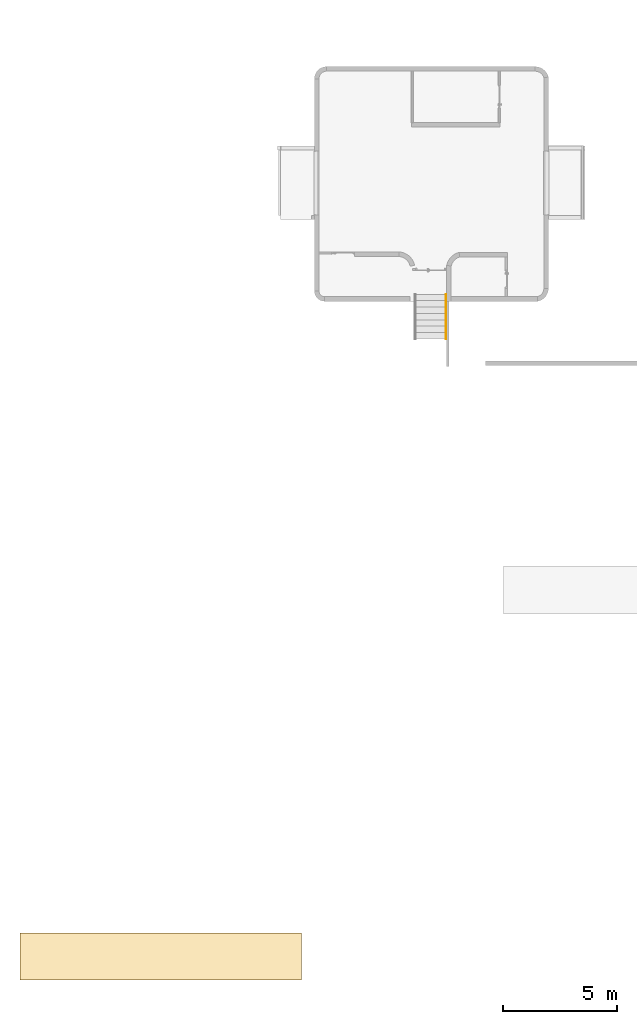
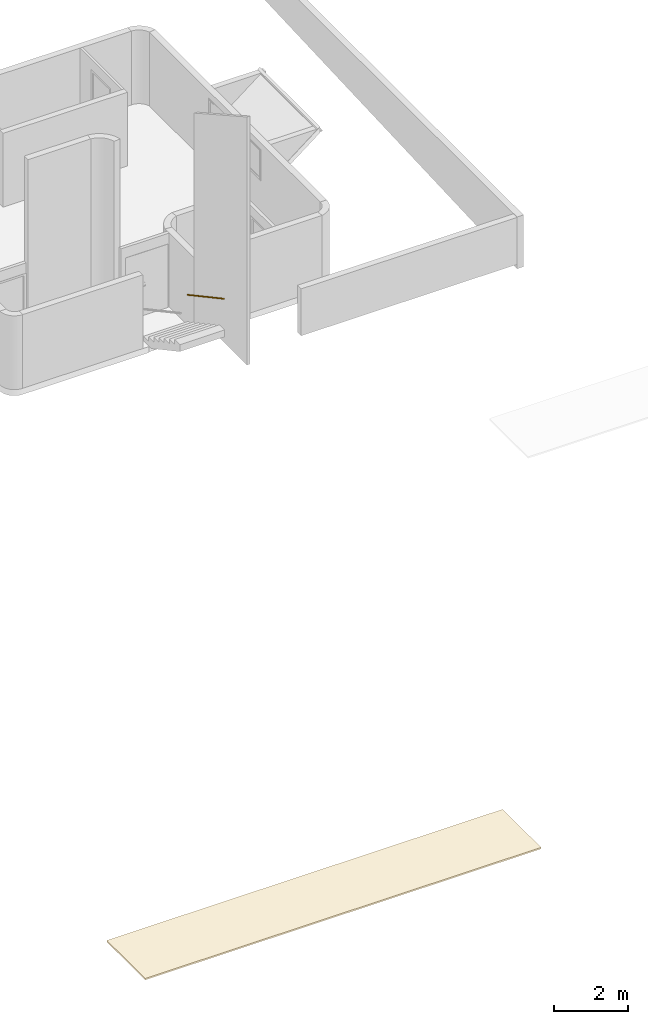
# One storey, part 3 of 3: 1 covering, 1 railing, 1 element without a shape of its own.
"""IFC2X3 building model written with IfcOpenShell, lengths in metres."""

from ifc_helpers import new_model, entity, si_unit, converted_unit, derived_unit, direction, frame, frame_2d, origin, place, context, subcontext, project, spatial, rectangle, extrude, faceted_brep, material, layer, layer_set, layer_usage, type_object, element, aggregate, save


model = new_model("IFC2X3")

# Units and contexts
model_context = context("Model", 3, precision=1e-05, world=origin(), true_north=direction((6.12303176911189e-17, 1.0)))
body_context = subcontext(model_context, "Body", "Model", "MODEL_VIEW")
ifc_project = project(units=[si_unit("LENGTHUNIT", "METRE"), si_unit("AREAUNIT", "SQUARE_METRE"), si_unit("VOLUMEUNIT", "CUBIC_METRE"), converted_unit("PLANEANGLEUNIT", "DEGREE", entity("IfcRatioMeasure", 0.0174532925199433), si_unit("PLANEANGLEUNIT", "RADIAN"), dimensions=[0, 0, 0, 0, 0, 0, 0]), si_unit("MASSUNIT", "GRAM", prefix="KILO"), derived_unit("MASSDENSITYUNIT", [(si_unit("MASSUNIT", "GRAM", prefix="KILO"), 1), (si_unit("LENGTHUNIT", "METRE"), -3)]), derived_unit("MOMENTOFINERTIAUNIT", [(si_unit("LENGTHUNIT", "METRE"), 4)]), si_unit("TIMEUNIT", "SECOND"), si_unit("FREQUENCYUNIT", "HERTZ"), si_unit("THERMODYNAMICTEMPERATUREUNIT", "DEGREE_CELSIUS"), derived_unit("THERMALTRANSMITTANCEUNIT", [(si_unit("MASSUNIT", "GRAM", prefix="KILO"), 1), (si_unit("THERMODYNAMICTEMPERATUREUNIT", "KELVIN"), -1), (si_unit("TIMEUNIT", "SECOND"), -3)]), derived_unit("VOLUMETRICFLOWRATEUNIT", [(si_unit("LENGTHUNIT", "METRE"), 3), (si_unit("TIMEUNIT", "SECOND"), -1)]), si_unit("ELECTRICCURRENTUNIT", "AMPERE"), si_unit("ELECTRICVOLTAGEUNIT", "VOLT"), si_unit("POWERUNIT", "WATT"), si_unit("FORCEUNIT", "NEWTON", prefix="KILO"), si_unit("ILLUMINANCEUNIT", "LUX"), si_unit("LUMINOUSFLUXUNIT", "LUMEN"), si_unit("LUMINOUSINTENSITYUNIT", "CANDELA"), derived_unit("USERDEFINED", [(si_unit("MASSUNIT", "GRAM", prefix="KILO"), -1), (si_unit("LENGTHUNIT", "METRE"), -2), (si_unit("TIMEUNIT", "SECOND"), 3), (si_unit("LUMINOUSFLUXUNIT", "LUMEN"), 1)]), derived_unit("LINEARVELOCITYUNIT", [(si_unit("LENGTHUNIT", "METRE"), 1), (si_unit("TIMEUNIT", "SECOND"), -1)]), si_unit("PRESSUREUNIT", "PASCAL"), derived_unit("USERDEFINED", [(si_unit("LENGTHUNIT", "METRE"), -2), (si_unit("MASSUNIT", "GRAM", prefix="KILO"), 1), (si_unit("TIMEUNIT", "SECOND"), -2)]), derived_unit("LINEARFORCEUNIT", [(si_unit("MASSUNIT", "GRAM", prefix="KILO"), 1), (si_unit("LENGTHUNIT", "METRE"), 1), (si_unit("TIMEUNIT", "SECOND"), -2), (si_unit("LENGTHUNIT", "METRE"), -1)]), derived_unit("PLANARFORCEUNIT", [(si_unit("MASSUNIT", "GRAM", prefix="KILO"), 1), (si_unit("LENGTHUNIT", "METRE"), 1), (si_unit("TIMEUNIT", "SECOND"), -2), (si_unit("LENGTHUNIT", "METRE"), -2)])], contexts=[model_context])

# Site, building, storey
site_placement = place(None, origin())
site = spatial("IfcSite", under=ifc_project, at=site_placement, Name="Default", CompositionType="ELEMENT")
building_placement = place(site_placement, origin())
building = spatial("IfcBuilding", under=site, at=building_placement, CompositionType="ELEMENT")
storey_placement = place(building_placement, frame((0.0, 0.0, -0.31669172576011)))
storey = spatial("IfcBuildingStorey", under=building, at=storey_placement, Name="SOUS SOL", CompositionType="ELEMENT", Elevation=-0.31669172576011)

# Covering
ifc_material_1 = material(Name="Montant métallique")
ifc_layer_1 = layer(ifc_material_1, 0.04)
ifc_material_2 = material(Name="Faux-plafond - Trame 600 x 600 -90")
ifc_layer_2 = layer(ifc_material_2, 0.01)
ifc_layer_set = layer_set([ifc_layer_1, ifc_layer_2], Name="Plafond composé:Normal")
ifc_layer_usage = layer_usage(ifc_layer_set, "AXIS3", "POSITIVE", 0.0)
covering_type = type_object("IfcCoveringType", Name="Plafond composé:Normal", PredefinedType="CEILING")
covering_placement = place(storey_placement, origin())
element("IfcCovering", 1, at=covering_placement, inside=storey, type_object=covering_type, material=ifc_layer_usage, Name="Plafond composé:Normal", ObjectType="Plafond composé:Normal", PredefinedType="CEILING", context=body_context, shape_type="SweptSolid", body=[
    extrude(rectangle(XDim=12.3363560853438, YDim=2.07006083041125, at=frame_2d((-6.66133814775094e-15, 1.94289029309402e-14), x_axis=(1.0, 0.0))), frame((-29.8758111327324, -12.994084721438, 3.22)), (0.0, 0.0, 1.0), 0.05),
])

# Stair, railing
stair_placement = place(storey_placement, origin())
stair = element("IfcStair", 2, at=stair_placement, inside=storey, Name="Escalier coulé sur place:Escalier", ObjectType="Escalier coulé sur place:Escalier monobloc", ShapeType="STRAIGHT_RUN_STAIR")
ifc_material_3 = material(Name="Métal - Peinture Grise")
railing_placement = place(stair_placement, frame((-17.3860891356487, 14.0661770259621, 1.01555760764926)))
railing = element("IfcRailing", 3, at=railing_placement, material=ifc_material_3, Name="Garde-corps:Au Mur", ObjectType="Garde-corps:Au Mur", PredefinedType="NOTDEFINED", context=body_context, shape_type="Brep", body=[
    faceted_brep([(0.025970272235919, 1.95999999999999, 0.0297171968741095), (0.0278452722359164, 1.95999999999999, 0.0260260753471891), (0.0291758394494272, 1.95999999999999, 0.0234067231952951), (0.0315952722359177, 1.95999999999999, 0.0186438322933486), (0.0291758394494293, 1.95999999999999, 0.0138809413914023), (0.0278452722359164, 1.95999999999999, 0.011261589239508), (0.025970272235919, 1.95999999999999, 0.00757046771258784), (0.0240952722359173, 1.95999999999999, 0.00387934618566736), (0.020345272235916, 1.95999999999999, 0.0038793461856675), (0.0165952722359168, 1.95999999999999, 0.00387934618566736), (0.0128452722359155, 1.95999999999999, 0.00387934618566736), (0.00909527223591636, 1.95999999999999, 0.00387934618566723), (0.00722027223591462, 1.95999999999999, 0.00757046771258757), (0.00534527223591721, 1.95999999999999, 0.0112615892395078), (0.00347027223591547, 1.95999999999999, 0.014952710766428), (0.0015952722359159, 1.95999999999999, 0.0186438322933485), (0.00401470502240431, 1.95999999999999, 0.023406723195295), (0.00643413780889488, 1.95999999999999, 0.0281696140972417), (0.00776470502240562, 1.95999999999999, 0.0307889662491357), (0.00909527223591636, 1.95999999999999, 0.0334083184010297), (0.0128452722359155, 1.95999999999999, 0.0334083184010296), (0.0165952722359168, 1.95999999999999, 0.0334083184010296), (0.0203452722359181, 1.95999999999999, 0.0334083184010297), (0.0240952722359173, 1.95999999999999, 0.0334083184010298), (0.00909527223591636, 0.0, 1.09215831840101), (0.00722027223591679, 0.0, 1.08846719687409), (0.00534527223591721, 0.0, 1.08477607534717), (0.00347027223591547, 0.0, 1.08108495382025), (0.0015952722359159, 0.0, 1.07739383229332), (0.00401470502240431, 0.0, 1.07263094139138), (0.00534527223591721, 0.0, 1.07001158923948), (0.00722027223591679, 0.0, 1.06632046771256), (0.00909527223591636, 0.0, 1.06262934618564), (0.0128452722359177, 0.0, 1.06262934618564), (0.0165952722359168, 0.0, 1.06262934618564), (0.0203452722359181, 0.0, 1.06262934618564), (0.0240952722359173, 0.0, 1.06262934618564), (0.0254258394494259, 0.0, 1.06524869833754), (0.0267564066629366, 0.0, 1.06786805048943), (0.029175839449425, 0.0, 1.07263094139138), (0.0315952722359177, 0.0, 1.07739383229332), (0.0297202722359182, 0.0, 1.08108495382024), (0.0278452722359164, 0.0, 1.08477607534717), (0.025970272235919, 0.0, 1.08846719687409), (0.0240952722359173, 0.0, 1.09215831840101), (0.020345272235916, 0.0, 1.09215831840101), (0.0165952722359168, 0.0, 1.09215831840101), (0.0128452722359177, 0.0, 1.09215831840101)], [[[0, 1, 2, 3, 4, 5, 6, 7, 8, 9, 10, 11, 12, 13, 14, 15, 16, 17, 18, 19, 20, 21, 22, 23]], [[24, 25, 26, 27, 28, 29, 30, 31, 32, 33, 34, 35, 36, 37, 38, 39, 40, 41, 42, 43, 44, 45, 46, 47]], [[45, 44, 23, 22, 21, 20, 19, 24, 47, 46]], [[1, 0, 23, 44, 43, 42, 41, 40, 3, 2]], [[24, 19, 18, 17, 16, 15, 28, 27, 26, 25]], [[7, 6, 5, 4, 3, 40, 39, 38, 37, 36]], [[33, 32, 11, 10, 9, 8, 7, 36, 35, 34]], [[28, 15, 14, 13, 12, 11, 32, 31, 30, 29]]]),
])
aggregate(stair, [railing])

save(model, "model.ifc")
